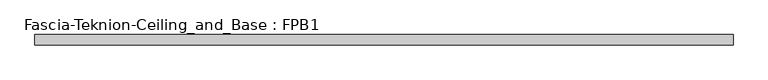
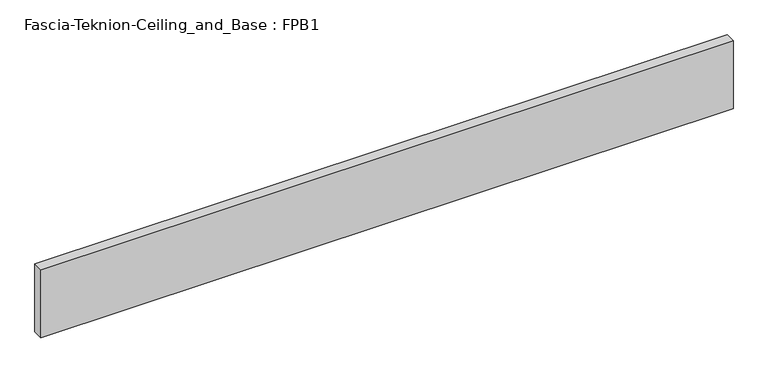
"""IFC4 building model written with IfcOpenShell, lengths in millimetres: proxy geometry, Fascia-Teknion-Ceiling_and_Base : FPB1."""

from ifc_helpers import new_model, si_unit, origin, origin_with_axes, place, context, project, spatial, polyline, outline, extrude, source, transform, mapped, element, save


def fascia_teknion_ceiling_and_base_fpb1_f6fada93(model_context):
    return source(origin(), model_context, "Body", "SweptSolid", [
        extrude(outline(polyline([(635.0, 0.0), (-635.0, 0.0), (-635.0, 19.05), (635.0, 19.05), (635.0, 0.0)])), origin_with_axes(), (0.0, 0.0, 1.0), 132.08),
    ])


if __name__ == "__main__":
    model = new_model("IFC4")
    model_context = context("Model", 3, world=origin())
    ifc_project = project(units=[si_unit("LENGTHUNIT", "METRE", prefix="MILLI")], contexts=[model_context])
    site = spatial("IfcSite", under=ifc_project)
    building = spatial("IfcBuilding", under=site)
    placement = place(None, origin())
    fascia_teknion_ceiling_and_base_fpb1_shape = fascia_teknion_ceiling_and_base_fpb1_f6fada93(model_context)
    element("IfcBuildingElementProxy", 1, Name="Fascia-Teknion-Ceiling_and_Base : FPB1", ObjectType="Fascia-Teknion-Ceiling_and_Base : FPB1", at=placement, inside=building, context=model_context, shape_type="MappedRepresentation", body=[
        mapped(fascia_teknion_ceiling_and_base_fpb1_shape, transform((0.0, 0.0, 0.0), x_axis=(1.0, 0.0, 0.0), y_axis=(0.0, 1.0, 0.0), z_axis=(0.0, 0.0, 1.0))),
    ])
    save(model, "model.ifc")
